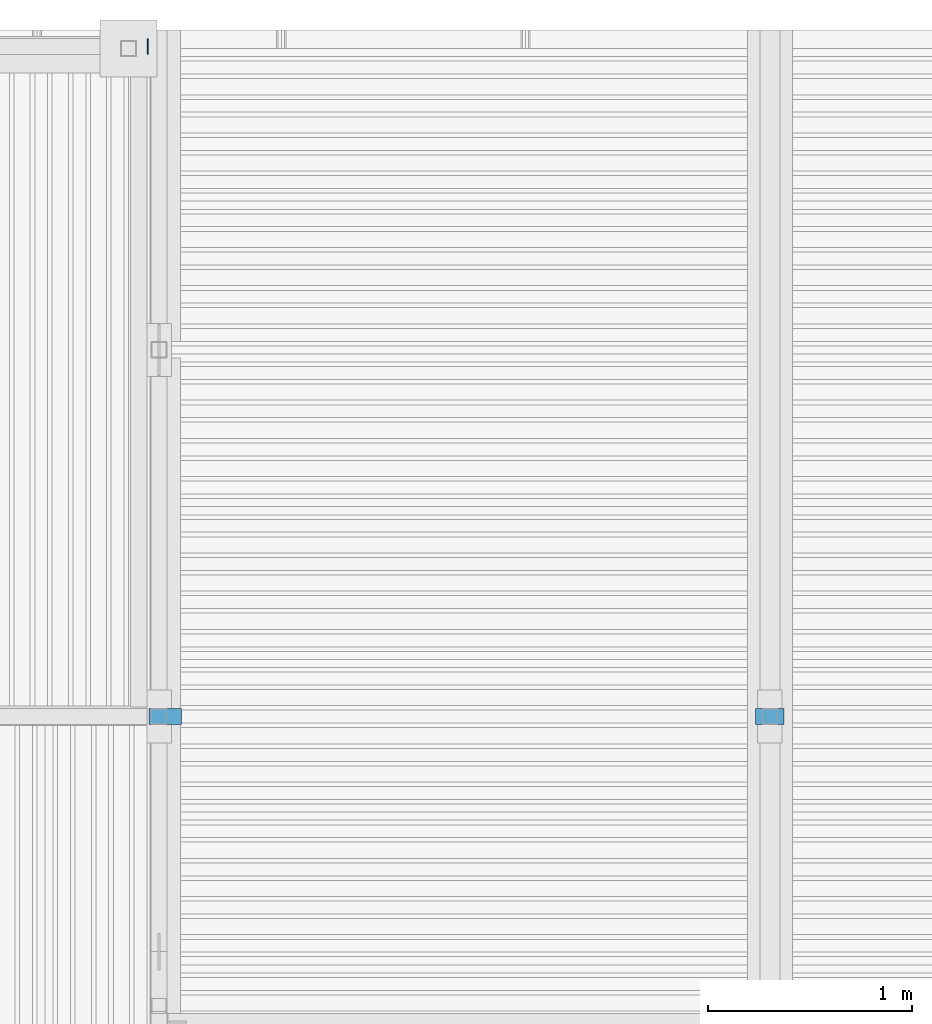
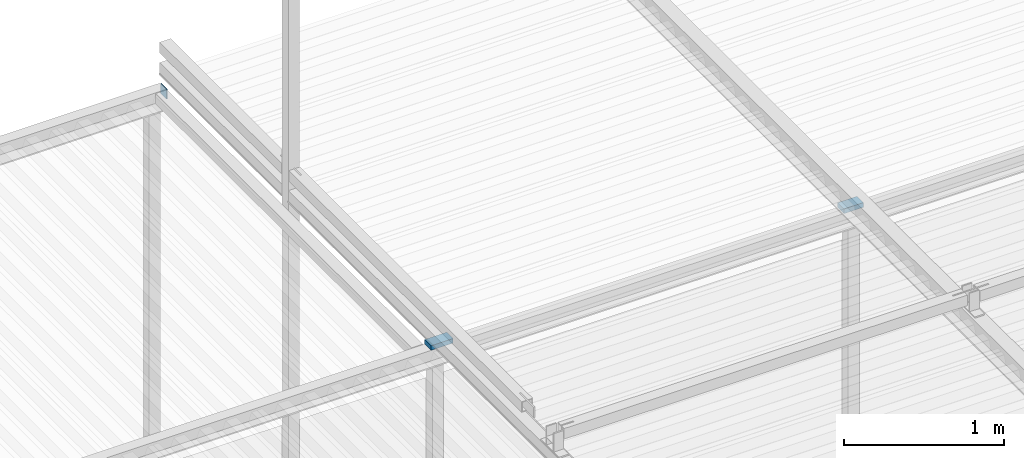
# One storey, part 34 of 98: 3 beams.
"""IFC2X3 building model written with IfcOpenShell, lengths in millimetres."""

from ifc_helpers import new_model, entity, si_unit, converted_unit, derived_unit, direction, frame, origin_with_axes, place, context, subcontext, project, spatial, faceted_brep, material, type_object, element, save


model = new_model("IFC2X3")

# Units and contexts
model_context = context("Model", 3, precision=0.01, world=frame((0.0, 4.29681676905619e-09, 0.0)), true_north=direction((4.01073788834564e-13, 1.0)))
plan_context = context("Plan", 3, precision=0.01, world=frame((0.0, 4.29681676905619e-09, 0.0)), true_north=direction((4.01073788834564e-13, 1.0)))
body_context = subcontext(model_context, "Body", "Model", "MODEL_VIEW")
ifc_project = project(units=[converted_unit("PLANEANGLEUNIT", "DEGREE", entity("IfcPositiveLengthMeasure", 0.0174532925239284), si_unit("PLANEANGLEUNIT", "RADIAN"), dimensions=[0, 0, 0, 0, 0, 0, 0]), si_unit("AREAUNIT", "SQUARE_METRE"), si_unit("LENGTHUNIT", "METRE", prefix="MILLI"), si_unit("MASSUNIT", "GRAM", prefix="KILO"), si_unit("POWERUNIT", "WATT"), si_unit("PRESSUREUNIT", "PASCAL"), si_unit("FORCEUNIT", "NEWTON", prefix="KILO"), si_unit("ELECTRICCURRENTUNIT", "AMPERE"), si_unit("THERMODYNAMICTEMPERATUREUNIT", "DEGREE_CELSIUS"), si_unit("TIMEUNIT", "SECOND"), si_unit("VOLUMEUNIT", "CUBIC_METRE"), derived_unit("LINEARVELOCITYUNIT", [(si_unit("LENGTHUNIT", "METRE"), 1), (si_unit("TIMEUNIT", "SECOND"), -1)]), derived_unit("VOLUMETRICFLOWRATEUNIT", [(si_unit("VOLUMEUNIT", "CUBIC_METRE"), 1), (si_unit("TIMEUNIT", "SECOND"), -1)]), derived_unit("THERMALTRANSMITTANCEUNIT", [(si_unit("POWERUNIT", "WATT"), 1), (si_unit("THERMODYNAMICTEMPERATUREUNIT", "KELVIN"), -1), (si_unit("AREAUNIT", "SQUARE_METRE"), -1)])], contexts=[model_context, plan_context])

# Site, building, storey
site_placement = place(None, frame((0.0, -4.29681676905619e-09, 0.0), z_axis=(0.0, 0.0, 1.0), x_axis=(1.0, 0.0, 0.0)))
site = spatial("IfcSite", under=ifc_project, at=site_placement, Name="Gardermoen", CompositionType="ELEMENT")
building_placement = place(site_placement, frame((0.0, 4.29681676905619e-09, 0.0), z_axis=(0.0, 0.0, 1.0), x_axis=(1.0, 0.0, 0.0)))
building = spatial("IfcBuilding", under=site, at=building_placement, Name="TS", CompositionType="ELEMENT")
storey_placement = place(building_placement, origin_with_axes())
storey = spatial("IfcBuildingStorey", under=building, at=storey_placement, Name="D", CompositionType="ELEMENT", Elevation=0.0)

# Beams
ifc_material = material(Name="STEEL/S355")
beam_type_1 = type_object("IfcBeamType", Name="PL5*75", PredefinedType="NOTDEFINED")
beam_1_placement = place(storey_placement, frame((519945.0, 420752.50496895, 206839.999718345), z_axis=(0.0, 0.0, 1.0), x_axis=(0.0, 1.0, 0.0)))
element("IfcBeam", 1, at=beam_1_placement, inside=storey, type_object=beam_type_1, material=ifc_material, Name="STÅLBJELKE", ObjectType="PL5*75", context=body_context, shape_type="Brep", body=[
    faceted_brep([(0.0, 2.5, -37.5), (0.0, 2.5, 37.5), (74.9999999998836, 2.5, 37.5), (74.9999999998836, 2.5, -37.5), (0.0, -2.5, 37.5), (74.9999999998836, -2.5, 37.5), (0.0, -2.5, -37.5), (74.9999999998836, -2.5, -37.5)], [[[0, 1, 2, 3]], [[1, 4, 5, 2]], [[4, 6, 7, 5]], [[6, 0, 3, 7]], [[5, 7, 3, 2]], [[6, 4, 1, 0]]]),
])
beam_type_2 = type_object("IfcBeamType", Name="PL35*80", PredefinedType="NOTDEFINED")
beam_2_placement = place(storey_placement, frame((520110.0, 417539.960797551, 206897.499718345), z_axis=(9.99999902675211e-08, -0.999999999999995, 0.0), x_axis=(-0.999999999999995, -9.99999902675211e-08, 0.0)))
element("IfcBeam", 2, at=beam_2_placement, inside=storey, type_object=beam_type_2, material=ifc_material, Name="STÅLBJELKE", ObjectType="PL35*80", context=body_context, shape_type="Brep", body=[
    faceted_brep([(-2.91038304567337e-10, -17.5000000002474, 2.3283064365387e-10), (0.0, -17.5, 80.0), (0.0, 17.5, 80.0), (2.3283064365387e-10, 17.5000000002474, 0.0), (160.0, -17.5, 80.0), (160.0, 17.5, 80.0), (160.0, -17.5, 5.82076609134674e-11), (160.0, 17.5, 5.82076609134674e-11)], [[[0, 1, 2, 3]], [[1, 4, 5, 2]], [[4, 6, 7, 5]], [[6, 0, 3, 7]], [[5, 7, 3, 2]], [[6, 4, 1, 0]]]),
])
beam_3_placement = place(storey_placement, frame((523070.0, 417539.960797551, 206897.499718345), z_axis=(9.99999902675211e-08, -0.999999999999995, 0.0), x_axis=(-0.999999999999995, -9.99999902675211e-08, 0.0)))
element("IfcBeam", 3, at=beam_3_placement, inside=storey, type_object=beam_type_2, material=ifc_material, Name="STÅLBJELKE", ObjectType="PL35*80", context=body_context, shape_type="Brep", body=[
    faceted_brep([(-2.91038304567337e-10, -17.5000000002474, 2.3283064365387e-10), (0.0, -17.5, 80.0), (0.0, 17.5, 80.0), (2.3283064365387e-10, 17.5000000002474, 0.0), (140.0, -17.5, 80.0), (140.0, 17.5, 80.0), (140.0, -17.5, 5.82076609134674e-11), (140.0, 17.5, 5.82076609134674e-11)], [[[0, 1, 2, 3]], [[1, 4, 5, 2]], [[4, 6, 7, 5]], [[6, 0, 3, 7]], [[5, 7, 3, 2]], [[6, 4, 1, 0]]]),
])

save(model, "model.ifc")
